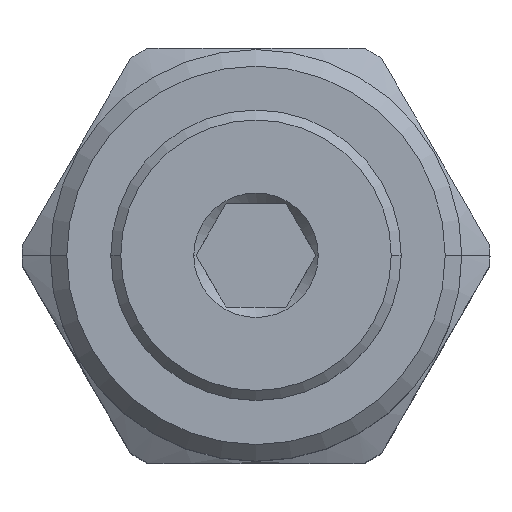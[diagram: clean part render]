
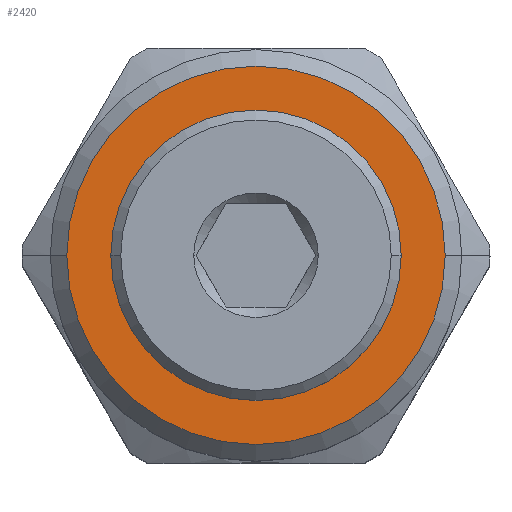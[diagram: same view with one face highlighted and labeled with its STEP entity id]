
A CAD part, top view. The second image highlights one B-rep face of the part: STEP entity #2420.
In plain terms, the highlighted planar face has unit normal (0, 0, 1).
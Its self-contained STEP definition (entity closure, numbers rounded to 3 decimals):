
#856=CARTESIAN_POINT('',(0.,0.,53.111));
#857=DIRECTION('',(0.,0.,-1.));
#858=DIRECTION('',(-1.,0.,0.));
#859=AXIS2_PLACEMENT_3D('',#856,#857,#858);
#861=CARTESIAN_POINT('',(0.,0.,53.111));
#862=DIRECTION('',(0.,0.,-1.));
#863=DIRECTION('',(1.,0.,0.));
#864=AXIS2_PLACEMENT_3D('',#861,#862,#863);
#866=CARTESIAN_POINT('',(0.,0.,53.111));
#867=DIRECTION('',(0.,0.,1.));
#868=DIRECTION('',(1.,0.,0.));
#869=AXIS2_PLACEMENT_3D('',#866,#867,#868);
#871=CARTESIAN_POINT('',(0.,0.,53.111));
#872=DIRECTION('',(0.,0.,1.));
#873=DIRECTION('',(-1.,0.,0.));
#874=AXIS2_PLACEMENT_3D('',#871,#872,#873);
#1237=CARTESIAN_POINT('',(14.478,0.,53.111));
#1238=CARTESIAN_POINT('',(-14.478,0.,53.111));
#1239=VERTEX_POINT('',#1237);
#1240=VERTEX_POINT('',#1238);
#1241=CARTESIAN_POINT('',(11.113,0.,53.111));
#1242=CARTESIAN_POINT('',(-11.113,0.,53.111));
#1243=VERTEX_POINT('',#1241);
#1244=VERTEX_POINT('',#1242);
#2404=CARTESIAN_POINT('',(0.,0.,53.111));
#2405=DIRECTION('',(0.,0.,1.));
#2406=DIRECTION('',(1.,0.,0.));
#2407=AXIS2_PLACEMENT_3D('',#2404,#2405,#2406);
#2408=PLANE('',#2407);
#2410=ORIENTED_EDGE('',*,*,#2409,.T.);
#2411=ORIENTED_EDGE('',*,*,#2394,.T.);
#2412=EDGE_LOOP('',(#2410,#2411));
#2413=FACE_OUTER_BOUND('',#2412,.F.);
#2415=ORIENTED_EDGE('',*,*,#2414,.T.);
#2417=ORIENTED_EDGE('',*,*,#2416,.T.);
#2418=EDGE_LOOP('',(#2415,#2417));
#2419=FACE_BOUND('',#2418,.F.);
#2420=ADVANCED_FACE('',(#2413,#2419),#2408,.T.);
#860=CIRCLE('',#859,14.478);
#865=CIRCLE('',#864,14.478);
#870=CIRCLE('',#869,11.113);
#875=CIRCLE('',#874,11.113);
#2394=EDGE_CURVE('',#1239,#1240,#865,.T.);
#2409=EDGE_CURVE('',#1240,#1239,#860,.T.);
#2414=EDGE_CURVE('',#1243,#1244,#870,.T.);
#2416=EDGE_CURVE('',#1244,#1243,#875,.T.);
